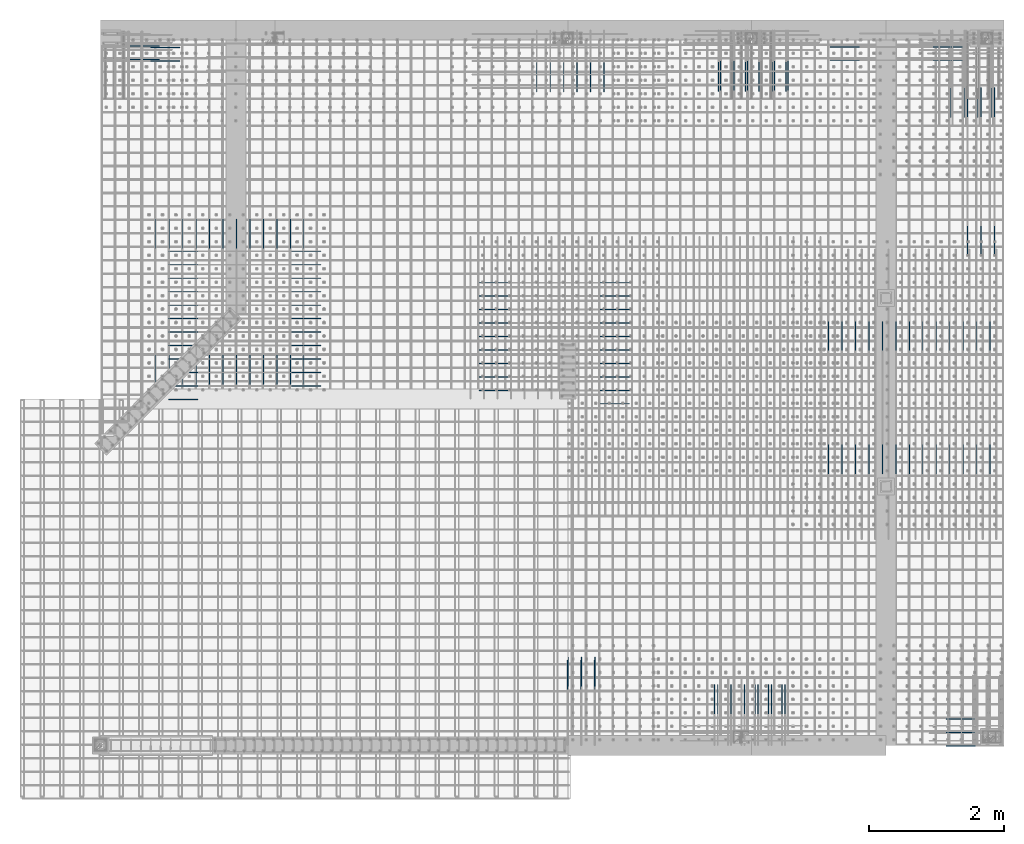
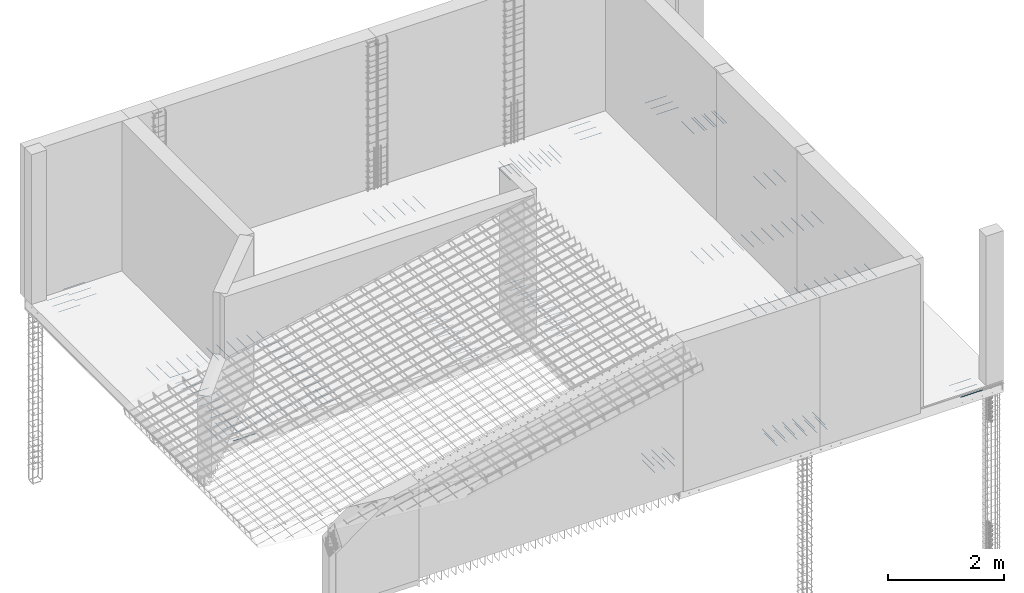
# One storey, part 7 of 17: 1 reinforcing bar.
"""IFC4 building model written with IfcOpenShell, lengths in metres."""

from ifc_helpers import new_model, entity, si_unit, frame, origin_with_axes, place, context, project, spatial, source, transform, mapped, element, save


model = new_model("IFC4")

# Units and contexts
model_context = context("Model", 3, precision=1e-05, world=origin_with_axes())
ifc_project = project(units=[si_unit("LENGTHUNIT", "METRE"), si_unit("AREAUNIT", "SQUARE_METRE"), si_unit("VOLUMEUNIT", "CUBIC_METRE"), si_unit("MASSUNIT", "GRAM", prefix="KILO"), si_unit("TIMEUNIT", "SECOND"), si_unit("PLANEANGLEUNIT", "RADIAN"), si_unit("SOLIDANGLEUNIT", "STERADIAN"), si_unit("THERMODYNAMICTEMPERATUREUNIT", "DEGREE_CELSIUS")], contexts=[model_context])

# Site, building, storey
placement_1 = place(None, origin_with_axes())
site = spatial("IfcSite", under=ifc_project, at=placement_1, Name="Italia", CompositionType="ELEMENT")
building = spatial("IfcBuilding", under=site, at=placement_1, Name="Abitazione", CompositionType="ELEMENT")
storey_placement = place(None, frame((0.0, 0.0, 3.569999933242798), z_axis=(0.0, 0.0, 1.0), x_axis=(1.0, 0.0, 0.0)))
storey = spatial("IfcBuildingStorey", under=building, at=storey_placement, Name="Storey 1", CompositionType="ELEMENT", Elevation=3.569999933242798)

# Reinforcing bar
shared_shape = source(origin_with_axes(), model_context, "Body", "AdvancedSweptSolid", [
    entity("IfcSweptDiskSolid", entity("IfcIndexedPolyCurve", entity("IfcCartesianPointList3D", [[1.92963, 10.963, 3.516], [2.36668, 10.963, 3.516]]), [entity("IfcLineIndex", [1, 2])], False), 0.006),
])
placement_2 = place(placement_1, origin_with_axes())
reinforcing_bar_placement = place(placement_2, origin_with_axes())
element("IfcReinforcingBar", 1, at=reinforcing_bar_placement, inside=storey, BarLength=0.437046, CrossSectionArea=0.0001131, NominalDiameter=0.012, context=model_context, shape_type="MappedRepresentation", body=[
    mapped(shared_shape, transform((22.1204, -0.668346, -0.13), x_axis=(0.0, 1.0, 0.0), y_axis=(-1.0, 0.0, 0.0), z_axis=(0.0, 0.0, 1.0), scale=1.0)),
    mapped(shared_shape, transform((21.9204, -0.668346, -0.13), x_axis=(0.0, 1.0, 0.0), y_axis=(-1.0, 0.0, 0.0), z_axis=(0.0, 0.0, 1.0), scale=1.0)),
    mapped(shared_shape, transform((22.3204, -0.668346, -0.13), x_axis=(0.0, 1.0, 0.0), y_axis=(-1.0, 0.0, 0.0), z_axis=(0.0, 0.0, 1.0), scale=1.0)),
    mapped(shared_shape, transform((21.5204, -0.668346, -0.13), x_axis=(0.0, 1.0, 0.0), y_axis=(-1.0, 0.0, 0.0), z_axis=(0.0, 0.0, 1.0), scale=1.0)),
    mapped(shared_shape, transform((2.09867, -3.83036, 0.0), x_axis=(1.0, 0.0, 0.0), y_axis=(0.0, 1.0, 0.0), z_axis=(0.0, 0.0, 1.0), scale=1.0)),
    mapped(shared_shape, transform((21.3204, -0.668346, -0.13), x_axis=(0.0, 1.0, 0.0), y_axis=(-1.0, 0.0, 0.0), z_axis=(0.0, 0.0, 1.0), scale=1.0)),
    mapped(shared_shape, transform((-0.305954, 0.422028, -0.142), x_axis=(1.0, 0.0, 0.0), y_axis=(0.0, 1.0, 0.0), z_axis=(0.0, 0.0, 1.0), scale=1.0)),
    mapped(shared_shape, transform((21.7204, -0.668346, -0.13), x_axis=(0.0, 1.0, 0.0), y_axis=(-1.0, 0.0, 0.0), z_axis=(0.0, 0.0, 1.0), scale=1.0)),
    mapped(shared_shape, transform((11.6276, 0.00762367, -0.142), x_axis=(1.0, 0.0, 0.0), y_axis=(0.0, 1.0, 0.0), z_axis=(0.0, 0.0, 1.0), scale=1.0)),
    mapped(shared_shape, transform((10.0947, 0.00762367, -0.142), x_axis=(1.0, 0.0, 0.0), y_axis=(0.0, 1.0, 0.0), z_axis=(0.0, 0.0, 1.0), scale=1.0)),
    mapped(shared_shape, transform((19.4869, -0.309017, -0.13), x_axis=(0.0, 1.0, 0.0), y_axis=(-1.0, 0.0, 0.0), z_axis=(0.0, 0.0, 1.0), scale=1.0)),
    mapped(shared_shape, transform((2.09867, -3.23036, 0.0), x_axis=(1.0, 0.0, 0.0), y_axis=(0.0, 1.0, 0.0), z_axis=(0.0, 0.0, 1.0), scale=1.0)),
    mapped(shared_shape, transform((10.0947, 0.207623, -0.142), x_axis=(1.0, 0.0, 0.0), y_axis=(0.0, 1.0, 0.0), z_axis=(0.0, 0.0, 1.0), scale=1.0)),
    mapped(shared_shape, transform((22.0741, -0.672286, -0.0160003), x_axis=(0.0, 1.0, 0.0), y_axis=(-1.0, 0.0, 0.0), z_axis=(0.0, 0.0, 1.0), scale=1.0)),
    mapped(shared_shape, transform((2.09867, -3.63036, 0.0), x_axis=(1.0, 0.0, 0.0), y_axis=(0.0, 1.0, 0.0), z_axis=(0.0, 0.0, 1.0), scale=1.0)),
    mapped(shared_shape, transform((19.287, -0.309017, -0.13), x_axis=(0.0, 1.0, 0.0), y_axis=(-1.0, 0.0, 0.0), z_axis=(0.0, 0.0, 1.0), scale=1.0)),
    mapped(shared_shape, transform((22.2741, -0.672286, -0.0160003), x_axis=(0.0, 1.0, 0.0), y_axis=(-1.0, 0.0, 0.0), z_axis=(0.0, 0.0, 1.0), scale=1.0)),
    mapped(shared_shape, transform((2.09867, -3.43036, 0.0), x_axis=(1.0, 0.0, 0.0), y_axis=(0.0, 1.0, 0.0), z_axis=(0.0, 0.0, 1.0), scale=1.0)),
    mapped(shared_shape, transform((-0.305954, 0.022028, -0.142), x_axis=(1.0, 0.0, 0.0), y_axis=(0.0, 1.0, 0.0), z_axis=(0.0, 0.0, 1.0), scale=1.0)),
    mapped(shared_shape, transform((19.087, -0.309017, -0.13), x_axis=(0.0, 1.0, 0.0), y_axis=(-1.0, 0.0, 0.0), z_axis=(0.0, 0.0, 1.0), scale=1.0)),
    mapped(shared_shape, transform((19.299, -0.263201, -0.0160003), x_axis=(0.0, 1.0, 0.0), y_axis=(-1.0, 0.0, 0.0), z_axis=(0.0, 0.0, 1.0), scale=1.0)),
    mapped(shared_shape, transform((19.0989, -0.263201, -0.0160003), x_axis=(0.0, 1.0, 0.0), y_axis=(-1.0, 0.0, 0.0), z_axis=(0.0, 0.0, 1.0), scale=1.0)),
    mapped(shared_shape, transform((19.499, -0.263201, -0.0160003), x_axis=(0.0, 1.0, 0.0), y_axis=(-1.0, 0.0, 0.0), z_axis=(0.0, 0.0, 1.0), scale=1.0)),
    mapped(shared_shape, transform((11.6276, 0.207623, -0.142), x_axis=(1.0, 0.0, 0.0), y_axis=(0.0, 1.0, 0.0), z_axis=(0.0, 0.0, 1.0), scale=1.0)),
    mapped(shared_shape, transform((2.09867, -4.23036, 0.0), x_axis=(1.0, 0.0, 0.0), y_axis=(0.0, 1.0, 0.0), z_axis=(0.0, 0.0, 1.0), scale=1.0)),
    mapped(shared_shape, transform((11.6276, 0.407623, -0.142), x_axis=(1.0, 0.0, 0.0), y_axis=(0.0, 1.0, 0.0), z_axis=(0.0, 0.0, 1.0), scale=1.0)),
    mapped(shared_shape, transform((2.09867, -4.03036, 0.0), x_axis=(1.0, 0.0, 0.0), y_axis=(0.0, 1.0, 0.0), z_axis=(0.0, 0.0, 1.0), scale=1.0)),
    mapped(shared_shape, transform((-0.305954, 0.222028, -0.142), x_axis=(1.0, 0.0, 0.0), y_axis=(0.0, 1.0, 0.0), z_axis=(0.0, 0.0, 1.0), scale=1.0)),
    mapped(shared_shape, transform((0.0, 0.4, 0.0), x_axis=(1.0, 0.0, 0.0), y_axis=(0.0, 1.0, 0.0), z_axis=(0.0, 0.0, 1.0), scale=1.0)),
    mapped(shared_shape, transform((2.09867, -4.63036, 0.0), x_axis=(1.0, 0.0, 0.0), y_axis=(0.0, 1.0, 0.0), z_axis=(0.0, 0.0, 1.0), scale=1.0)),
    mapped(shared_shape, transform((2.09867, -4.83036, 0.0), x_axis=(1.0, 0.0, 0.0), y_axis=(0.0, 1.0, 0.0), z_axis=(0.0, 0.0, 1.0), scale=1.0)),
    mapped(shared_shape, transform((0.0, 0.2, 0.0), x_axis=(1.0, 0.0, 0.0), y_axis=(0.0, 1.0, 0.0), z_axis=(0.0, 0.0, 1.0), scale=1.0)),
    mapped(shared_shape, transform((6.68111, -3.29628, 0.0), x_axis=(1.0, 0.0, 0.0), y_axis=(0.0, 1.0, 0.0), z_axis=(0.0, 0.0, 1.0), scale=1.0)),
    mapped(shared_shape, transform((2.09867, -4.43036, 0.0), x_axis=(1.0, 0.0, 0.0), y_axis=(0.0, 1.0, 0.0), z_axis=(0.0, 0.0, 1.0), scale=1.0)),
    mapped(shared_shape, transform((2.09867, -2.83036, 0.0), x_axis=(1.0, 0.0, 0.0), y_axis=(0.0, 1.0, 0.0), z_axis=(0.0, 0.0, 1.0), scale=1.0)),
    mapped(shared_shape, transform((6.68111, -3.49628, 0.0), x_axis=(1.0, 0.0, 0.0), y_axis=(0.0, 1.0, 0.0), z_axis=(0.0, 0.0, 1.0), scale=1.0)),
    mapped(shared_shape, transform((10.0947, 0.407623, -0.142), x_axis=(1.0, 0.0, 0.0), y_axis=(0.0, 1.0, 0.0), z_axis=(0.0, 0.0, 1.0), scale=1.0)),
    mapped(shared_shape, transform((23.5688, 2.89288, -0.13), x_axis=(0.0, 1.0, 0.0), y_axis=(-1.0, 0.0, 0.0), z_axis=(0.0, 0.0, 1.0), scale=1.0)),
    mapped(shared_shape, transform((25.4319, 6.14487, -0.13), x_axis=(0.0, 1.0, 0.0), y_axis=(-1.0, 0.0, 0.0), z_axis=(0.0, 0.0, 1.0), scale=1.0)),
    mapped(shared_shape, transform((22.9688, 4.72584, -0.13), x_axis=(0.0, 1.0, 0.0), y_axis=(-1.0, 0.0, 0.0), z_axis=(0.0, 0.0, 1.0), scale=1.0)),
    mapped(shared_shape, transform((25.4319, 8.19782, -0.13), x_axis=(0.0, 1.0, 0.0), y_axis=(-1.0, 0.0, 0.0), z_axis=(0.0, 0.0, 1.0), scale=1.0)),
    mapped(shared_shape, transform((23.1688, 2.89288, -0.13), x_axis=(0.0, 1.0, 0.0), y_axis=(-1.0, 0.0, 0.0), z_axis=(0.0, 0.0, 1.0), scale=1.0)),
    mapped(shared_shape, transform((23.3688, 2.89288, -0.13), x_axis=(0.0, 1.0, 0.0), y_axis=(-1.0, 0.0, 0.0), z_axis=(0.0, 0.0, 1.0), scale=1.0)),
    mapped(shared_shape, transform((25.0319, 6.14487, -0.13), x_axis=(0.0, 1.0, 0.0), y_axis=(-1.0, 0.0, 0.0), z_axis=(0.0, 0.0, 1.0), scale=1.0)),
    mapped(shared_shape, transform((25.2319, 6.14487, -0.13), x_axis=(0.0, 1.0, 0.0), y_axis=(-1.0, 0.0, 0.0), z_axis=(0.0, 0.0, 1.0), scale=1.0)),
    mapped(shared_shape, transform((23.9688, 2.89288, -0.13), x_axis=(0.0, 1.0, 0.0), y_axis=(-1.0, 0.0, 0.0), z_axis=(0.0, 0.0, 1.0), scale=1.0)),
    mapped(shared_shape, transform((19.0319, 8.57008, -0.13), x_axis=(0.0, 1.0, 0.0), y_axis=(-1.0, 0.0, 0.0), z_axis=(0.0, 0.0, 1.0), scale=1.0)),
    mapped(shared_shape, transform((22.1337, 8.57705, -0.13), x_axis=(0.0, 1.0, 0.0), y_axis=(-1.0, 0.0, 0.0), z_axis=(0.0, 0.0, 1.0), scale=1.0)),
    mapped(shared_shape, transform((21.9337, 8.57705, -0.13), x_axis=(0.0, 1.0, 0.0), y_axis=(-1.0, 0.0, 0.0), z_axis=(0.0, 0.0, 1.0), scale=1.0)),
    mapped(shared_shape, transform((22.3337, 8.57705, -0.13), x_axis=(0.0, 1.0, 0.0), y_axis=(-1.0, 0.0, 0.0), z_axis=(0.0, 0.0, 1.0), scale=1.0)),
    mapped(shared_shape, transform((21.7337, 8.57705, -0.13), x_axis=(0.0, 1.0, 0.0), y_axis=(-1.0, 0.0, 0.0), z_axis=(0.0, 0.0, 1.0), scale=1.0)),
    mapped(shared_shape, transform((19.6319, 8.57008, -0.13), x_axis=(0.0, 1.0, 0.0), y_axis=(-1.0, 0.0, 0.0), z_axis=(0.0, 0.0, 1.0), scale=1.0)),
    mapped(shared_shape, transform((23.1688, 4.72584, -0.13), x_axis=(0.0, 1.0, 0.0), y_axis=(-1.0, 0.0, 0.0), z_axis=(0.0, 0.0, 1.0), scale=1.0)),
    mapped(shared_shape, transform((24.1688, 4.72584, -0.13), x_axis=(0.0, 1.0, 0.0), y_axis=(-1.0, 0.0, 0.0), z_axis=(0.0, 0.0, 1.0), scale=1.0)),
    mapped(shared_shape, transform((24.3688, 4.72584, -0.13), x_axis=(0.0, 1.0, 0.0), y_axis=(-1.0, 0.0, 0.0), z_axis=(0.0, 0.0, 1.0), scale=1.0)),
    mapped(shared_shape, transform((21.5337, 8.57705, -0.13), x_axis=(0.0, 1.0, 0.0), y_axis=(-1.0, 0.0, 0.0), z_axis=(0.0, 0.0, 1.0), scale=1.0)),
    mapped(shared_shape, transform((23.7688, 4.72584, -0.13), x_axis=(0.0, 1.0, 0.0), y_axis=(-1.0, 0.0, 0.0), z_axis=(0.0, 0.0, 1.0), scale=1.0)),
    mapped(shared_shape, transform((23.7688, 2.89288, -0.13), x_axis=(0.0, 1.0, 0.0), y_axis=(-1.0, 0.0, 0.0), z_axis=(0.0, 0.0, 1.0), scale=1.0)),
    mapped(shared_shape, transform((25.3688, 4.72584, -0.13), x_axis=(0.0, 1.0, 0.0), y_axis=(-1.0, 0.0, 0.0), z_axis=(0.0, 0.0, 1.0), scale=1.0)),
    mapped(shared_shape, transform((22.9688, 2.89288, -0.13), x_axis=(0.0, 1.0, 0.0), y_axis=(-1.0, 0.0, 0.0), z_axis=(0.0, 0.0, 1.0), scale=1.0)),
    mapped(shared_shape, transform((19.4319, 8.57008, -0.13), x_axis=(0.0, 1.0, 0.0), y_axis=(-1.0, 0.0, 0.0), z_axis=(0.0, 0.0, 1.0), scale=1.0)),
    mapped(shared_shape, transform((24.1688, 2.89288, -0.13), x_axis=(0.0, 1.0, 0.0), y_axis=(-1.0, 0.0, 0.0), z_axis=(0.0, 0.0, 1.0), scale=1.0)),
    mapped(shared_shape, transform((25.0319, 8.19782, -0.13), x_axis=(0.0, 1.0, 0.0), y_axis=(-1.0, 0.0, 0.0), z_axis=(0.0, 0.0, 1.0), scale=1.0)),
    mapped(shared_shape, transform((18.6319, 8.57008, -0.13), x_axis=(0.0, 1.0, 0.0), y_axis=(-1.0, 0.0, 0.0), z_axis=(0.0, 0.0, 1.0), scale=1.0)),
    mapped(shared_shape, transform((13.7709, 6.24587, -0.0160003), x_axis=(0.0, 1.0, 0.0), y_axis=(-1.0, 0.0, 0.0), z_axis=(0.0, 0.0, 1.0), scale=1.0)),
    mapped(shared_shape, transform((24.9688, 2.89288, -0.13), x_axis=(0.0, 1.0, 0.0), y_axis=(-1.0, 0.0, 0.0), z_axis=(0.0, 0.0, 1.0), scale=1.0)),
    mapped(shared_shape, transform((23.3688, 4.72584, -0.13), x_axis=(0.0, 1.0, 0.0), y_axis=(-1.0, 0.0, 0.0), z_axis=(0.0, 0.0, 1.0), scale=1.0)),
    mapped(shared_shape, transform((18.8319, 8.57008, -0.13), x_axis=(0.0, 1.0, 0.0), y_axis=(-1.0, 0.0, 0.0), z_axis=(0.0, 0.0, 1.0), scale=1.0)),
    mapped(shared_shape, transform((14.3709, 6.24587, -0.0160003), x_axis=(0.0, 1.0, 0.0), y_axis=(-1.0, 0.0, 0.0), z_axis=(0.0, 0.0, 1.0), scale=1.0)),
    mapped(shared_shape, transform((13.9709, 4.22292, -0.0160003), x_axis=(0.0, 1.0, 0.0), y_axis=(-1.0, 0.0, 0.0), z_axis=(0.0, 0.0, 1.0), scale=1.0)),
    mapped(shared_shape, transform((14.1709, 6.24587, -0.0160003), x_axis=(0.0, 1.0, 0.0), y_axis=(-1.0, 0.0, 0.0), z_axis=(0.0, 0.0, 1.0), scale=1.0)),
    mapped(shared_shape, transform((23.5688, 4.72584, -0.13), x_axis=(0.0, 1.0, 0.0), y_axis=(-1.0, 0.0, 0.0), z_axis=(0.0, 0.0, 1.0), scale=1.0)),
    mapped(shared_shape, transform((25.1688, 4.72584, -0.13), x_axis=(0.0, 1.0, 0.0), y_axis=(-1.0, 0.0, 0.0), z_axis=(0.0, 0.0, 1.0), scale=1.0)),
    mapped(shared_shape, transform((24.5688, 4.72584, -0.13), x_axis=(0.0, 1.0, 0.0), y_axis=(-1.0, 0.0, 0.0), z_axis=(0.0, 0.0, 1.0), scale=1.0)),
    mapped(shared_shape, transform((24.9688, 4.72584, -0.13), x_axis=(0.0, 1.0, 0.0), y_axis=(-1.0, 0.0, 0.0), z_axis=(0.0, 0.0, 1.0), scale=1.0)),
    mapped(shared_shape, transform((19.2319, 8.57008, -0.13), x_axis=(0.0, 1.0, 0.0), y_axis=(-1.0, 0.0, 0.0), z_axis=(0.0, 0.0, 1.0), scale=1.0)),
    mapped(shared_shape, transform((14.5709, 6.24587, -0.0160003), x_axis=(0.0, 1.0, 0.0), y_axis=(-1.0, 0.0, 0.0), z_axis=(0.0, 0.0, 1.0), scale=1.0)),
    mapped(shared_shape, transform((14.1709, 4.22292, -0.0160003), x_axis=(0.0, 1.0, 0.0), y_axis=(-1.0, 0.0, 0.0), z_axis=(0.0, 0.0, 1.0), scale=1.0)),
    mapped(shared_shape, transform((14.5709, 4.22292, -0.0160003), x_axis=(0.0, 1.0, 0.0), y_axis=(-1.0, 0.0, 0.0), z_axis=(0.0, 0.0, 1.0), scale=1.0)),
    mapped(shared_shape, transform((13.9709, 6.24587, -0.0160003), x_axis=(0.0, 1.0, 0.0), y_axis=(-1.0, 0.0, 0.0), z_axis=(0.0, 0.0, 1.0), scale=1.0)),
    mapped(shared_shape, transform((13.3709, 6.24587, -0.0160003), x_axis=(0.0, 1.0, 0.0), y_axis=(-1.0, 0.0, 0.0), z_axis=(0.0, 0.0, 1.0), scale=1.0)),
    mapped(shared_shape, transform((24.7688, 4.72584, -0.13), x_axis=(0.0, 1.0, 0.0), y_axis=(-1.0, 0.0, 0.0), z_axis=(0.0, 0.0, 1.0), scale=1.0)),
    mapped(shared_shape, transform((13.7709, 4.22292, -0.0160003), x_axis=(0.0, 1.0, 0.0), y_axis=(-1.0, 0.0, 0.0), z_axis=(0.0, 0.0, 1.0), scale=1.0)),
    mapped(shared_shape, transform((25.2319, 8.19782, -0.13), x_axis=(0.0, 1.0, 0.0), y_axis=(-1.0, 0.0, 0.0), z_axis=(0.0, 0.0, 1.0), scale=1.0)),
    mapped(shared_shape, transform((25.1688, 2.89288, -0.13), x_axis=(0.0, 1.0, 0.0), y_axis=(-1.0, 0.0, 0.0), z_axis=(0.0, 0.0, 1.0), scale=1.0)),
    mapped(shared_shape, transform((24.3688, 2.89288, -0.13), x_axis=(0.0, 1.0, 0.0), y_axis=(-1.0, 0.0, 0.0), z_axis=(0.0, 0.0, 1.0), scale=1.0)),
    mapped(shared_shape, transform((12.9709, 4.22292, -0.0160003), x_axis=(0.0, 1.0, 0.0), y_axis=(-1.0, 0.0, 0.0), z_axis=(0.0, 0.0, 1.0), scale=1.0)),
    mapped(shared_shape, transform((23.9688, 4.72584, -0.13), x_axis=(0.0, 1.0, 0.0), y_axis=(-1.0, 0.0, 0.0), z_axis=(0.0, 0.0, 1.0), scale=1.0)),
    mapped(shared_shape, transform((13.5709, 6.24587, -0.0160003), x_axis=(0.0, 1.0, 0.0), y_axis=(-1.0, 0.0, 0.0), z_axis=(0.0, 0.0, 1.0), scale=1.0)),
    mapped(shared_shape, transform((25.3848, 8.19501, -0.13), x_axis=(0.0, 1.0, 0.0), y_axis=(-1.0, 0.0, 0.0), z_axis=(0.0, 0.0, 1.0), scale=1.0)),
    mapped(shared_shape, transform((25.3688, 2.89288, -0.13), x_axis=(0.0, 1.0, 0.0), y_axis=(-1.0, 0.0, 0.0), z_axis=(0.0, 0.0, 1.0), scale=1.0)),
    mapped(shared_shape, transform((24.5688, 2.89288, -0.13), x_axis=(0.0, 1.0, 0.0), y_axis=(-1.0, 0.0, 0.0), z_axis=(0.0, 0.0, 1.0), scale=1.0)),
    mapped(shared_shape, transform((24.7848, 8.19501, -0.13), x_axis=(0.0, 1.0, 0.0), y_axis=(-1.0, 0.0, 0.0), z_axis=(0.0, 0.0, 1.0), scale=1.0)),
    mapped(shared_shape, transform((13.1709, 6.24587, -0.0160003), x_axis=(0.0, 1.0, 0.0), y_axis=(-1.0, 0.0, 0.0), z_axis=(0.0, 0.0, 1.0), scale=1.0)),
    mapped(shared_shape, transform((14.3709, 4.22292, -0.0160003), x_axis=(0.0, 1.0, 0.0), y_axis=(-1.0, 0.0, 0.0), z_axis=(0.0, 0.0, 1.0), scale=1.0)),
    mapped(shared_shape, transform((21.3337, 8.57705, -0.13), x_axis=(0.0, 1.0, 0.0), y_axis=(-1.0, 0.0, 0.0), z_axis=(0.0, 0.0, 1.0), scale=1.0)),
    mapped(shared_shape, transform((22.3645, 8.59078, -0.0160003), x_axis=(0.0, 1.0, 0.0), y_axis=(-1.0, 0.0, 0.0), z_axis=(0.0, 0.0, 1.0), scale=1.0)),
    mapped(shared_shape, transform((22.1645, 8.59078, -0.0160003), x_axis=(0.0, 1.0, 0.0), y_axis=(-1.0, 0.0, 0.0), z_axis=(0.0, 0.0, 1.0), scale=1.0)),
    mapped(shared_shape, transform((21.9645, 8.59078, -0.0160003), x_axis=(0.0, 1.0, 0.0), y_axis=(-1.0, 0.0, 0.0), z_axis=(0.0, 0.0, 1.0), scale=1.0)),
    mapped(shared_shape, transform((21.5645, 8.59078, -0.0160003), x_axis=(0.0, 1.0, 0.0), y_axis=(-1.0, 0.0, 0.0), z_axis=(0.0, 0.0, 1.0), scale=1.0)),
    mapped(shared_shape, transform((21.7645, 8.59078, -0.0160003), x_axis=(0.0, 1.0, 0.0), y_axis=(-1.0, 0.0, 0.0), z_axis=(0.0, 0.0, 1.0), scale=1.0)),
    mapped(shared_shape, transform((21.3645, 8.59078, -0.0160003), x_axis=(0.0, 1.0, 0.0), y_axis=(-1.0, 0.0, 0.0), z_axis=(0.0, 0.0, 1.0), scale=1.0)),
    mapped(shared_shape, transform((15.1709, 6.24587, -0.0160003), x_axis=(0.0, 1.0, 0.0), y_axis=(-1.0, 0.0, 0.0), z_axis=(0.0, 0.0, 1.0), scale=1.0)),
    mapped(shared_shape, transform((14.7709, 4.22292, -0.0160003), x_axis=(0.0, 1.0, 0.0), y_axis=(-1.0, 0.0, 0.0), z_axis=(0.0, 0.0, 1.0), scale=1.0)),
    mapped(shared_shape, transform((24.9848, 8.19501, -0.13), x_axis=(0.0, 1.0, 0.0), y_axis=(-1.0, 0.0, 0.0), z_axis=(0.0, 0.0, 1.0), scale=1.0)),
    mapped(shared_shape, transform((13.1709, 4.22292, -0.0160003), x_axis=(0.0, 1.0, 0.0), y_axis=(-1.0, 0.0, 0.0), z_axis=(0.0, 0.0, 1.0), scale=1.0)),
    mapped(shared_shape, transform((14.9709, 4.22292, -0.0160003), x_axis=(0.0, 1.0, 0.0), y_axis=(-1.0, 0.0, 0.0), z_axis=(0.0, 0.0, 1.0), scale=1.0)),
    mapped(shared_shape, transform((24.7688, 2.89288, -0.13), x_axis=(0.0, 1.0, 0.0), y_axis=(-1.0, 0.0, 0.0), z_axis=(0.0, 0.0, 1.0), scale=1.0)),
    mapped(shared_shape, transform((13.5709, 4.22292, -0.0160003), x_axis=(0.0, 1.0, 0.0), y_axis=(-1.0, 0.0, 0.0), z_axis=(0.0, 0.0, 1.0), scale=1.0)),
    mapped(shared_shape, transform((13.3709, 4.22292, -0.0160003), x_axis=(0.0, 1.0, 0.0), y_axis=(-1.0, 0.0, 0.0), z_axis=(0.0, 0.0, 1.0), scale=1.0)),
    mapped(shared_shape, transform((15.1709, 4.22292, -0.0160003), x_axis=(0.0, 1.0, 0.0), y_axis=(-1.0, 0.0, 0.0), z_axis=(0.0, 0.0, 1.0), scale=1.0)),
    mapped(shared_shape, transform((14.7709, 6.24587, -0.0160003), x_axis=(0.0, 1.0, 0.0), y_axis=(-1.0, 0.0, 0.0), z_axis=(0.0, 0.0, 1.0), scale=1.0)),
    mapped(shared_shape, transform((14.9709, 6.24587, -0.0160003), x_axis=(0.0, 1.0, 0.0), y_axis=(-1.0, 0.0, 0.0), z_axis=(0.0, 0.0, 1.0), scale=1.0)),
    mapped(shared_shape, transform((12.9709, 6.24587, -0.0160003), x_axis=(0.0, 1.0, 0.0), y_axis=(-1.0, 0.0, 0.0), z_axis=(0.0, 0.0, 1.0), scale=1.0)),
    mapped(shared_shape, transform((25.1848, 8.19501, -0.13), x_axis=(0.0, 1.0, 0.0), y_axis=(-1.0, 0.0, 0.0), z_axis=(0.0, 0.0, 1.0), scale=1.0)),
    mapped(shared_shape, transform((2.09867, -3.03036, 0.0), x_axis=(1.0, 0.0, 0.0), y_axis=(0.0, 1.0, 0.0), z_axis=(0.0, 0.0, 1.0), scale=1.0)),
    mapped(shared_shape, transform((0.265716, -5.03036, 0.0), x_axis=(1.0, 0.0, 0.0), y_axis=(0.0, 1.0, 0.0), z_axis=(0.0, 0.0, 1.0), scale=1.0)),
    mapped(shared_shape, transform((4.87815, -3.69628, 0.0), x_axis=(1.0, 0.0, 0.0), y_axis=(0.0, 1.0, 0.0), z_axis=(0.0, 0.0, 1.0), scale=1.0)),
    mapped(shared_shape, transform((4.87815, -3.49628, 0.0), x_axis=(1.0, 0.0, 0.0), y_axis=(0.0, 1.0, 0.0), z_axis=(0.0, 0.0, 1.0), scale=1.0)),
    mapped(shared_shape, transform((4.87815, -3.29628, 0.0), x_axis=(1.0, 0.0, 0.0), y_axis=(0.0, 1.0, 0.0), z_axis=(0.0, 0.0, 1.0), scale=1.0)),
    mapped(shared_shape, transform((4.87815, -3.89628, 0.0), x_axis=(1.0, 0.0, 0.0), y_axis=(0.0, 1.0, 0.0), z_axis=(0.0, 0.0, 1.0), scale=1.0)),
    mapped(shared_shape, transform((4.87815, -4.49628, 0.0), x_axis=(1.0, 0.0, 0.0), y_axis=(0.0, 1.0, 0.0), z_axis=(0.0, 0.0, 1.0), scale=1.0)),
    mapped(shared_shape, transform((4.87815, -4.29628, 0.0), x_axis=(1.0, 0.0, 0.0), y_axis=(0.0, 1.0, 0.0), z_axis=(0.0, 0.0, 1.0), scale=1.0)),
    mapped(shared_shape, transform((4.87815, -4.09628, 0.0), x_axis=(1.0, 0.0, 0.0), y_axis=(0.0, 1.0, 0.0), z_axis=(0.0, 0.0, 1.0), scale=1.0)),
    mapped(shared_shape, transform((4.87815, -4.69628, 0.0), x_axis=(1.0, 0.0, 0.0), y_axis=(0.0, 1.0, 0.0), z_axis=(0.0, 0.0, 1.0), scale=1.0)),
    mapped(shared_shape, transform((6.68111, -3.69628, 0.0), x_axis=(1.0, 0.0, 0.0), y_axis=(0.0, 1.0, 0.0), z_axis=(0.0, 0.0, 1.0), scale=1.0)),
    mapped(shared_shape, transform((0.265716, -4.83036, 0.0), x_axis=(1.0, 0.0, 0.0), y_axis=(0.0, 1.0, 0.0), z_axis=(0.0, 0.0, 1.0), scale=1.0)),
    mapped(shared_shape, transform((4.87815, -4.89628, 0.0), x_axis=(1.0, 0.0, 0.0), y_axis=(0.0, 1.0, 0.0), z_axis=(0.0, 0.0, 1.0), scale=1.0)),
    mapped(shared_shape, transform((21.8741, -0.672286, -0.0160003), x_axis=(0.0, 1.0, 0.0), y_axis=(-1.0, 0.0, 0.0), z_axis=(0.0, 0.0, 1.0), scale=1.0)),
    mapped(shared_shape, transform((21.2741, -0.672286, -0.0160003), x_axis=(0.0, 1.0, 0.0), y_axis=(-1.0, 0.0, 0.0), z_axis=(0.0, 0.0, 1.0), scale=1.0)),
    mapped(shared_shape, transform((21.4741, -0.672286, -0.0160003), x_axis=(0.0, 1.0, 0.0), y_axis=(-1.0, 0.0, 0.0), z_axis=(0.0, 0.0, 1.0), scale=1.0)),
    mapped(shared_shape, transform((21.6741, -0.672286, -0.0160003), x_axis=(0.0, 1.0, 0.0), y_axis=(-1.0, 0.0, 0.0), z_axis=(0.0, 0.0, 1.0), scale=1.0)),
    mapped(shared_shape, transform((11.8184, -9.77895, 0.0), x_axis=(1.0, 0.0, 0.0), y_axis=(0.0, 1.0, 0.0), z_axis=(0.0, 0.0, 1.0), scale=1.0)),
    mapped(shared_shape, transform((0.265716, -3.03036, 0.0), x_axis=(1.0, 0.0, 0.0), y_axis=(0.0, 1.0, 0.0), z_axis=(0.0, 0.0, 1.0), scale=1.0)),
    mapped(shared_shape, transform((11.8184, -10.179, 0.0), x_axis=(1.0, 0.0, 0.0), y_axis=(0.0, 1.0, 0.0), z_axis=(0.0, 0.0, 1.0), scale=1.0)),
    mapped(shared_shape, transform((11.8184, -9.97895, 0.0), x_axis=(1.0, 0.0, 0.0), y_axis=(0.0, 1.0, 0.0), z_axis=(0.0, 0.0, 1.0), scale=1.0)),
    mapped(shared_shape, transform((0.265716, -3.23036, 0.0), x_axis=(1.0, 0.0, 0.0), y_axis=(0.0, 1.0, 0.0), z_axis=(0.0, 0.0, 1.0), scale=1.0)),
    mapped(shared_shape, transform((0.265716, -3.83036, 0.0), x_axis=(1.0, 0.0, 0.0), y_axis=(0.0, 1.0, 0.0), z_axis=(0.0, 0.0, 1.0), scale=1.0)),
    mapped(shared_shape, transform((0.265716, -3.63036, 0.0), x_axis=(1.0, 0.0, 0.0), y_axis=(0.0, 1.0, 0.0), z_axis=(0.0, 0.0, 1.0), scale=1.0)),
    mapped(shared_shape, transform((0.265716, -3.43036, 0.0), x_axis=(1.0, 0.0, 0.0), y_axis=(0.0, 1.0, 0.0), z_axis=(0.0, 0.0, 1.0), scale=1.0)),
    mapped(shared_shape, transform((0.265716, -4.03036, 0.0), x_axis=(1.0, 0.0, 0.0), y_axis=(0.0, 1.0, 0.0), z_axis=(0.0, 0.0, 1.0), scale=1.0)),
    mapped(shared_shape, transform((0.265716, -4.63036, 0.0), x_axis=(1.0, 0.0, 0.0), y_axis=(0.0, 1.0, 0.0), z_axis=(0.0, 0.0, 1.0), scale=1.0)),
    mapped(shared_shape, transform((0.265716, -4.43036, 0.0), x_axis=(1.0, 0.0, 0.0), y_axis=(0.0, 1.0, 0.0), z_axis=(0.0, 0.0, 1.0), scale=1.0)),
    mapped(shared_shape, transform((0.265716, -4.23036, 0.0), x_axis=(1.0, 0.0, 0.0), y_axis=(0.0, 1.0, 0.0), z_axis=(0.0, 0.0, 1.0), scale=1.0)),
    mapped(shared_shape, transform((0.0, 0.0, 0.0), x_axis=(1.0, 0.0, 0.0), y_axis=(0.0, 1.0, 0.0), z_axis=(0.0, 0.0, 1.0), scale=1.0)),
    mapped(shared_shape, transform((6.68111, -4.29628, 0.0), x_axis=(1.0, 0.0, 0.0), y_axis=(0.0, 1.0, 0.0), z_axis=(0.0, 0.0, 1.0), scale=1.0)),
    mapped(shared_shape, transform((6.68111, -4.09628, 0.0), x_axis=(1.0, 0.0, 0.0), y_axis=(0.0, 1.0, 0.0), z_axis=(0.0, 0.0, 1.0), scale=1.0)),
    mapped(shared_shape, transform((6.68111, -3.89628, 0.0), x_axis=(1.0, 0.0, 0.0), y_axis=(0.0, 1.0, 0.0), z_axis=(0.0, 0.0, 1.0), scale=1.0)),
    mapped(shared_shape, transform((6.68111, -4.49628, 0.0), x_axis=(1.0, 0.0, 0.0), y_axis=(0.0, 1.0, 0.0), z_axis=(0.0, 0.0, 1.0), scale=1.0)),
    mapped(shared_shape, transform((6.68111, -5.09628, 0.0), x_axis=(1.0, 0.0, 0.0), y_axis=(0.0, 1.0, 0.0), z_axis=(0.0, 0.0, 1.0), scale=1.0)),
    mapped(shared_shape, transform((6.68111, -4.89628, 0.0), x_axis=(1.0, 0.0, 0.0), y_axis=(0.0, 1.0, 0.0), z_axis=(0.0, 0.0, 1.0), scale=1.0)),
    mapped(shared_shape, transform((6.68111, -4.69628, 0.0), x_axis=(1.0, 0.0, 0.0), y_axis=(0.0, 1.0, 0.0), z_axis=(0.0, 0.0, 1.0), scale=1.0)),
    mapped(shared_shape, transform((0.265716, -2.83036, 0.0), x_axis=(1.0, 0.0, 0.0), y_axis=(0.0, 1.0, 0.0), z_axis=(0.0, 0.0, 1.0), scale=1.0)),
])

save(model, "model.ifc")
